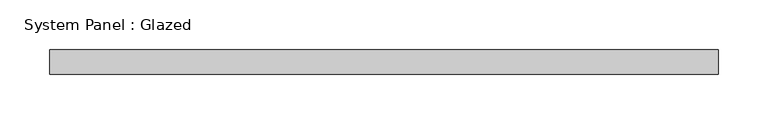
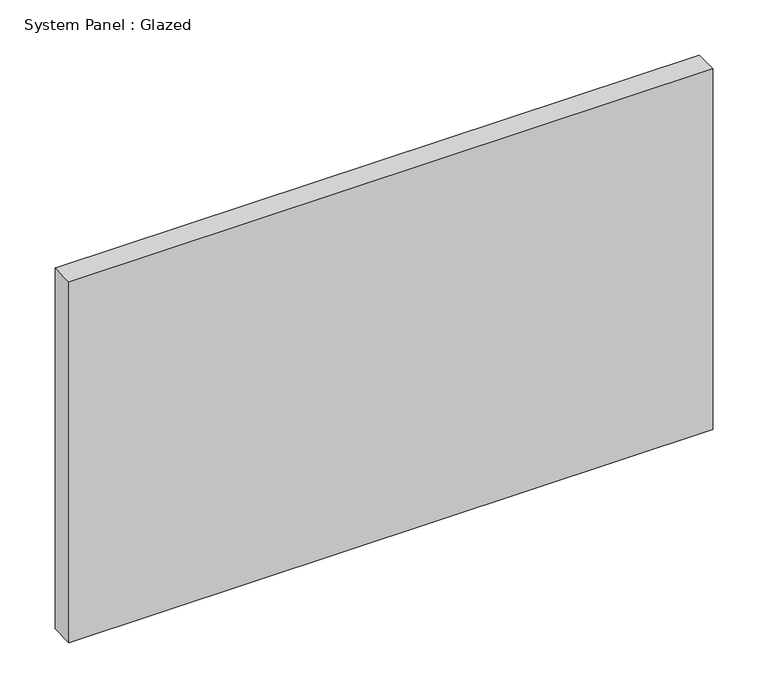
"""IFC4 building model written with IfcOpenShell, lengths in millimetres: plate geometry, System Panel : Glazed."""

from ifc_helpers import new_model, si_unit, origin, origin_with_axes, place, context, project, spatial, polyline, outline, extrude, source, transform, mapped, element, save


def system_panel_glazed_68d5ac44(model_context):
    return source(origin(), model_context, "Body", "SweptSolid", [
        extrude(outline(polyline([(337.4999999, -49.5), (-337.4999999, -49.5), (-337.4999999, -24.5), (337.4999999, -24.5), (337.4999999, -49.5)])), origin_with_axes(), (0.0, 0.0, 1.0), 400.0),
    ])


if __name__ == "__main__":
    model = new_model("IFC4")
    model_context = context("Model", 3, world=origin())
    ifc_project = project(units=[si_unit("LENGTHUNIT", "METRE", prefix="MILLI")], contexts=[model_context])
    site = spatial("IfcSite", under=ifc_project)
    building = spatial("IfcBuilding", under=site)
    placement = place(None, origin())
    system_panel_glazed_shape = system_panel_glazed_68d5ac44(model_context)
    element("IfcPlate", 1, ObjectType="System Panel : Glazed", at=placement, inside=building, context=model_context, shape_type="MappedRepresentation", body=[
        mapped(system_panel_glazed_shape, transform((0.0, 0.0, 0.0), x_axis=(1.0, 0.0, 0.0), y_axis=(0.0, 1.0, 0.0), z_axis=(0.0, 0.0, 1.0))),
    ])
    save(model, "model.ifc")
